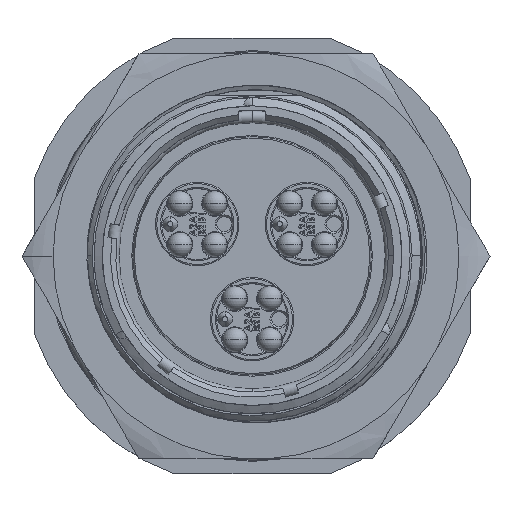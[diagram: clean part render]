
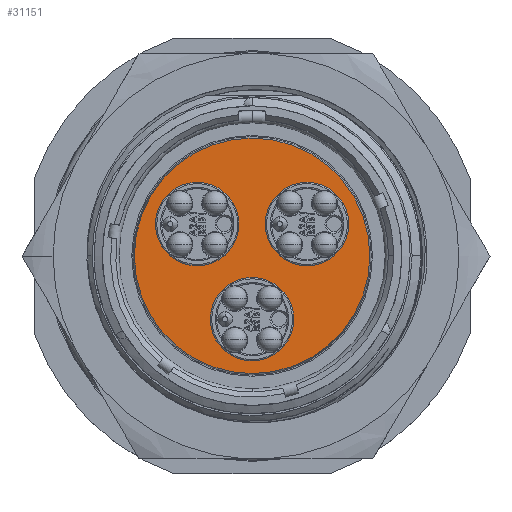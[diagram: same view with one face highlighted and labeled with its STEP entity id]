
A CAD part, top view. The second image highlights one B-rep face of the part: STEP entity #31151.
In plain terms, the highlighted planar face has unit normal (0, 0, 1).
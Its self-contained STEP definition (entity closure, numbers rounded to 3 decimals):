
#641 = VERTEX_POINT ( 'NONE', #27561 ) ;
#973 = CARTESIAN_POINT ( 'NONE',  ( 14.155, 0., -10.973 ) ) ;
#2339 = EDGE_CURVE ( 'NONE', #7215, #25781, #2981, .T. ) ;
#2981 = CIRCLE ( 'NONE', #10824, 5.01 ) ;
#3035 = DIRECTION ( 'NONE',  ( 1., 0., 0. ) ) ;
#3979 = AXIS2_PLACEMENT_3D ( 'NONE', #35835, #18802, #11666 ) ;
#4108 = FACE_BOUND ( 'NONE', #16182, .T. ) ;
#6457 = CIRCLE ( 'NONE', #37189, 5.01 ) ;
#7215 = VERTEX_POINT ( 'NONE', #19850 ) ;
#7240 = FACE_BOUND ( 'NONE', #10540, .T. ) ;
#8341 = ORIENTED_EDGE ( 'NONE', *, *, #8771, .T. ) ;
#8771 = EDGE_CURVE ( 'NONE', #40930, #9202, #22765, .T. ) ;
#9202 = VERTEX_POINT ( 'NONE', #17931 ) ;
#9493 = EDGE_LOOP ( 'NONE', ( #32837, #38772 ) ) ;
#10540 = EDGE_LOOP ( 'NONE', ( #8341, #13620 ) ) ;
#10824 = AXIS2_PLACEMENT_3D ( 'NONE', #38828, #15720, #36326 ) ;
#10872 = CARTESIAN_POINT ( 'NONE',  ( 6.599, 3.81, -10.973 ) ) ;
#11039 = VERTEX_POINT ( 'NONE', #973 ) ;
#11096 = AXIS2_PLACEMENT_3D ( 'NONE', #25423, #18033, #28579 ) ;
#11577 = CARTESIAN_POINT ( 'NONE',  ( 0., -7.62, -10.973 ) ) ;
#11666 = DIRECTION ( 'NONE',  ( -1., 0., 0. ) ) ;
#11739 = CIRCLE ( 'NONE', #43184, 5.01 ) ;
#12159 = CARTESIAN_POINT ( 'NONE',  ( 6.599, 8.82, -10.973 ) ) ;
#12814 = CARTESIAN_POINT ( 'NONE',  ( -14.155, 0., -10.973 ) ) ;
#13620 = ORIENTED_EDGE ( 'NONE', *, *, #39380, .T. ) ;
#14038 = DIRECTION ( 'NONE',  ( 0., 0., -1. ) ) ;
#14247 = CARTESIAN_POINT ( 'NONE',  ( -6.599, -1.2, -10.973 ) ) ;
#14635 = CARTESIAN_POINT ( 'NONE',  ( 0., 0., -10.973 ) ) ;
#15496 = CARTESIAN_POINT ( 'NONE',  ( 0., -7.62, -10.973 ) ) ;
#15720 = DIRECTION ( 'NONE',  ( 0., 0., -1. ) ) ;
#16052 = AXIS2_PLACEMENT_3D ( 'NONE', #44188, #16199, #3035 ) ;
#16182 = EDGE_LOOP ( 'NONE', ( #27142, #18733 ) ) ;
#16199 = DIRECTION ( 'NONE',  ( 0., 0., -1. ) ) ;
#16863 = EDGE_CURVE ( 'NONE', #17853, #11039, #39570, .T. ) ;
#17720 = CARTESIAN_POINT ( 'NONE',  ( 0., 0., -10.973 ) ) ;
#17853 = VERTEX_POINT ( 'NONE', #12814 ) ;
#17931 = CARTESIAN_POINT ( 'NONE',  ( 0., -2.61, -10.973 ) ) ;
#18033 = DIRECTION ( 'NONE',  ( 0., 0., -1. ) ) ;
#18733 = ORIENTED_EDGE ( 'NONE', *, *, #24606, .T. ) ;
#18802 = DIRECTION ( 'NONE',  ( 0., 0., -1. ) ) ;
#19850 = CARTESIAN_POINT ( 'NONE',  ( -6.599, 8.82, -10.973 ) ) ;
#20657 = FACE_OUTER_BOUND ( 'NONE', #27231, .T. ) ;
#21283 = EDGE_CURVE ( 'NONE', #25781, #7215, #23219, .T. ) ;
#21988 = EDGE_CURVE ( 'NONE', #11039, #17853, #25398, .T. ) ;
#22338 = CARTESIAN_POINT ( 'NONE',  ( 0., -12.63, -10.973 ) ) ;
#22765 = CIRCLE ( 'NONE', #32818, 5.01 ) ;
#23219 = CIRCLE ( 'NONE', #16052, 5.01 ) ;
#24057 = DIRECTION ( 'NONE',  ( 1., 0., 0. ) ) ;
#24606 = EDGE_CURVE ( 'NONE', #27733, #641, #30400, .T. ) ;
#25398 = CIRCLE ( 'NONE', #3979, 14.155 ) ;
#25423 = CARTESIAN_POINT ( 'NONE',  ( 6.599, 3.81, -10.973 ) ) ;
#25781 = VERTEX_POINT ( 'NONE', #14247 ) ;
#27142 = ORIENTED_EDGE ( 'NONE', *, *, #32824, .T. ) ;
#27231 = EDGE_LOOP ( 'NONE', ( #37020, #37084 ) ) ;
#27561 = CARTESIAN_POINT ( 'NONE',  ( 6.599, -1.2, -10.973 ) ) ;
#27733 = VERTEX_POINT ( 'NONE', #12159 ) ;
#27843 = DIRECTION ( 'NONE',  ( 1., 0., 0. ) ) ;
#28074 = PLANE ( 'NONE',  #38568 ) ;
#28579 = DIRECTION ( 'NONE',  ( 1., 0., 0. ) ) ;
#30400 = CIRCLE ( 'NONE', #11096, 5.01 ) ;
#31151 = ADVANCED_FACE ( 'NONE', ( #20657, #38575, #4108, #7240 ), #28074, .T. ) ;
#32818 = AXIS2_PLACEMENT_3D ( 'NONE', #11577, #14038, #38894 ) ;
#32824 = EDGE_CURVE ( 'NONE', #641, #27733, #6457, .T. ) ;
#32837 = ORIENTED_EDGE ( 'NONE', *, *, #21283, .T. ) ;
#34817 = DIRECTION ( 'NONE',  ( 0., 0., -1. ) ) ;
#35835 = CARTESIAN_POINT ( 'NONE',  ( 0., 0., -10.973 ) ) ;
#35906 = DIRECTION ( 'NONE',  ( 0., 0., -1. ) ) ;
#36326 = DIRECTION ( 'NONE',  ( 1., 0., 0. ) ) ;
#36701 = AXIS2_PLACEMENT_3D ( 'NONE', #14635, #34817, #40852 ) ;
#37020 = ORIENTED_EDGE ( 'NONE', *, *, #16863, .F. ) ;
#37084 = ORIENTED_EDGE ( 'NONE', *, *, #21988, .F. ) ;
#37189 = AXIS2_PLACEMENT_3D ( 'NONE', #10872, #38188, #24057 ) ;
#38188 = DIRECTION ( 'NONE',  ( 0., 0., -1. ) ) ;
#38568 = AXIS2_PLACEMENT_3D ( 'NONE', #17720, #41715, #27843 ) ;
#38575 = FACE_BOUND ( 'NONE', #9493, .T. ) ;
#38772 = ORIENTED_EDGE ( 'NONE', *, *, #2339, .T. ) ;
#38828 = CARTESIAN_POINT ( 'NONE',  ( -6.599, 3.81, -10.973 ) ) ;
#38894 = DIRECTION ( 'NONE',  ( 1., 0., 0. ) ) ;
#39380 = EDGE_CURVE ( 'NONE', #9202, #40930, #11739, .T. ) ;
#39570 = CIRCLE ( 'NONE', #36701, 14.155 ) ;
#40852 = DIRECTION ( 'NONE',  ( -1., 0., 0. ) ) ;
#40930 = VERTEX_POINT ( 'NONE', #22338 ) ;
#41715 = DIRECTION ( 'NONE',  ( 0., 0., 1. ) ) ;
#42616 = DIRECTION ( 'NONE',  ( 1., 0., 0. ) ) ;
#43184 = AXIS2_PLACEMENT_3D ( 'NONE', #15496, #35906, #42616 ) ;
#44188 = CARTESIAN_POINT ( 'NONE',  ( -6.599, 3.81, -10.973 ) ) ;
